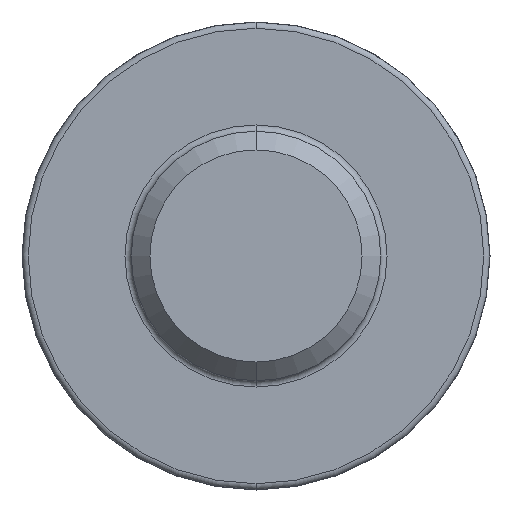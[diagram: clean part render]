
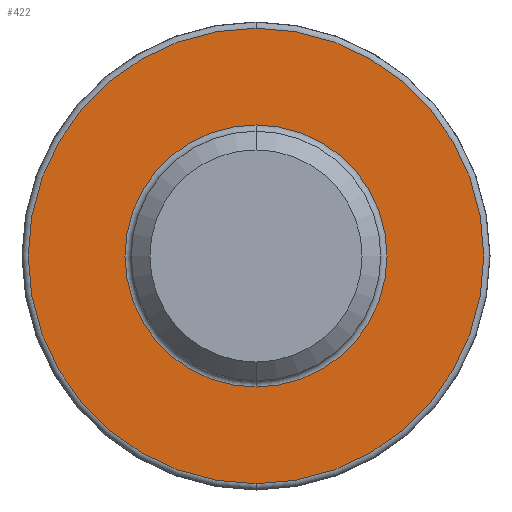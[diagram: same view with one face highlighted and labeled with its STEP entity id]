
A CAD part, front view. The second image highlights one B-rep face of the part: STEP entity #422.
In plain terms, the highlighted planar face has unit normal (0, -1, 0).
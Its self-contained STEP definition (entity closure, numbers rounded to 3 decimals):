
#1 = ORIENTED_EDGE ( 'NONE', *, *, #539, .T. ) ;
#14 = EDGE_LOOP ( 'NONE', ( #659, #133 ) ) ;
#29 = EDGE_CURVE ( 'NONE', #119, #643, #278, .T. ) ;
#73 = AXIS2_PLACEMENT_3D ( 'NONE', #101, #844, #776 ) ;
#101 = CARTESIAN_POINT ( 'NONE',  ( 0., -2.4, 0. ) ) ;
#119 = VERTEX_POINT ( 'NONE', #121 ) ;
#121 = CARTESIAN_POINT ( 'NONE',  ( 0., -2.4, -2.1 ) ) ;
#126 = DIRECTION ( 'NONE',  ( 0., -1., 0. ) ) ;
#133 = ORIENTED_EDGE ( 'NONE', *, *, #29, .T. ) ;
#165 = CARTESIAN_POINT ( 'NONE',  ( 0., -2.4, -3.65 ) ) ;
#194 = EDGE_CURVE ( 'NONE', #713, #310, #382, .T. ) ;
#198 = CARTESIAN_POINT ( 'NONE',  ( 0., -2.4, 0. ) ) ;
#238 = AXIS2_PLACEMENT_3D ( 'NONE', #198, #126, #393 ) ;
#243 = PLANE ( 'NONE',  #834 ) ;
#249 = EDGE_LOOP ( 'NONE', ( #711, #1 ) ) ;
#278 = CIRCLE ( 'NONE', #498, 2.1 ) ;
#304 = CIRCLE ( 'NONE', #414, 2.1 ) ;
#307 = DIRECTION ( 'NONE',  ( 0., 0., 1. ) ) ;
#310 = VERTEX_POINT ( 'NONE', #165 ) ;
#361 = FACE_BOUND ( 'NONE', #14, .T. ) ;
#374 = DIRECTION ( 'NONE',  ( 0., 0., 1. ) ) ;
#382 = CIRCLE ( 'NONE', #238, 3.65 ) ;
#393 = DIRECTION ( 'NONE',  ( 0., 0., 1. ) ) ;
#414 = AXIS2_PLACEMENT_3D ( 'NONE', #506, #633, #307 ) ;
#420 = DIRECTION ( 'NONE',  ( 0., 1., 0. ) ) ;
#422 = ADVANCED_FACE ( 'NONE', ( #361, #771 ), #243, .F. ) ;
#436 = DIRECTION ( 'NONE',  ( 0., 1., 0. ) ) ;
#443 = EDGE_CURVE ( 'NONE', #643, #119, #304, .T. ) ;
#473 = CARTESIAN_POINT ( 'NONE',  ( 0., -2.4, 3.65 ) ) ;
#498 = AXIS2_PLACEMENT_3D ( 'NONE', #556, #420, #685 ) ;
#506 = CARTESIAN_POINT ( 'NONE',  ( 0., -2.4, 0. ) ) ;
#539 = EDGE_CURVE ( 'NONE', #310, #713, #759, .T. ) ;
#556 = CARTESIAN_POINT ( 'NONE',  ( 0., -2.4, 0. ) ) ;
#633 = DIRECTION ( 'NONE',  ( 0., 1., 0. ) ) ;
#643 = VERTEX_POINT ( 'NONE', #852 ) ;
#659 = ORIENTED_EDGE ( 'NONE', *, *, #443, .T. ) ;
#685 = DIRECTION ( 'NONE',  ( 0., 0., 1. ) ) ;
#711 = ORIENTED_EDGE ( 'NONE', *, *, #194, .T. ) ;
#713 = VERTEX_POINT ( 'NONE', #473 ) ;
#759 = CIRCLE ( 'NONE', #73, 3.65 ) ;
#771 = FACE_OUTER_BOUND ( 'NONE', #249, .T. ) ;
#776 = DIRECTION ( 'NONE',  ( 0., 0., 1. ) ) ;
#832 = CARTESIAN_POINT ( 'NONE',  ( 2., -2.4, 0. ) ) ;
#834 = AXIS2_PLACEMENT_3D ( 'NONE', #832, #436, #374 ) ;
#844 = DIRECTION ( 'NONE',  ( 0., -1., 0. ) ) ;
#852 = CARTESIAN_POINT ( 'NONE',  ( 0., -2.4, 2.1 ) ) ;
